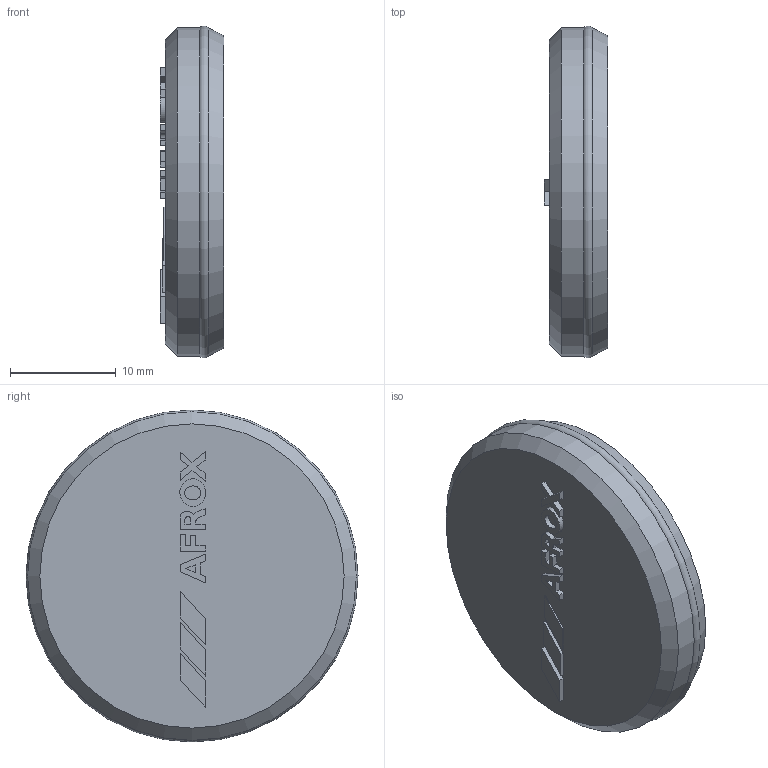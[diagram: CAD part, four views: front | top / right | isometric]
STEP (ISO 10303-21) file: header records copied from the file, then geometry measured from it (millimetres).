
FILE_DESCRIPTION( ( 'Unknown' ), '1' );
FILE_NAME( 'Z:/SThomas/TENTE/CUSTOMER-SUPPLIER COMMUNICATION/AFROX/AFROX-PVO 160 X 40 - WHEEL COVER.stp', 'Unknown', ( 'Unknown' ), ( 'Unknown' ), 'PSStep 10.1', 'Unknown', ' ' );
FILE_SCHEMA( ( 'AUTOMOTIVE_DESIGN { 1 0 10303 214 1 1 1 1 }' ) );
Length unit declared in the file: millimetre
Products named in the file (1): 1
Bounding box: 6.03 x 31.35 x 31.35 mm (x, y, z)
Volume: 1604.4 mm3; surface area: 2311.2 mm2
Topology: 1 solids, 1 shells, 82 faces, 200 edges, 132 vertices
Faces by surface type: plane 70, cylinder 6, torus 2, extrusion 2, cone 2
Full cylindrical faces by diameter (mm): 28 x1, 31 x1
Entity records: 3010 total; most frequent: CARTESIAN_POINT 407, ORIENTED_EDGE 384, DIRECTION 380, EDGE_CURVE 192, VECTOR 174, LINE 172, VERTEX_POINT 132, AXIS2_PLACEMENT_3D 103
